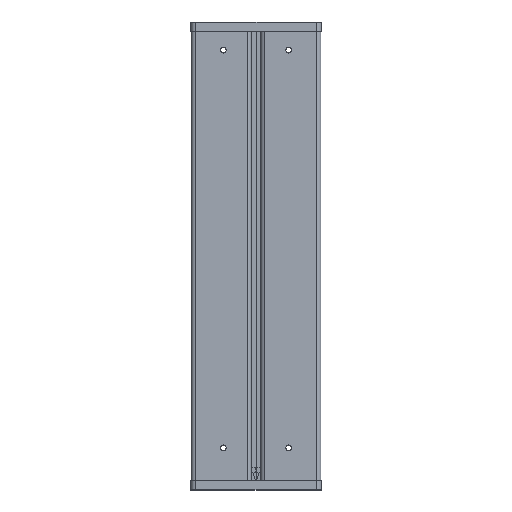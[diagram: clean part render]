
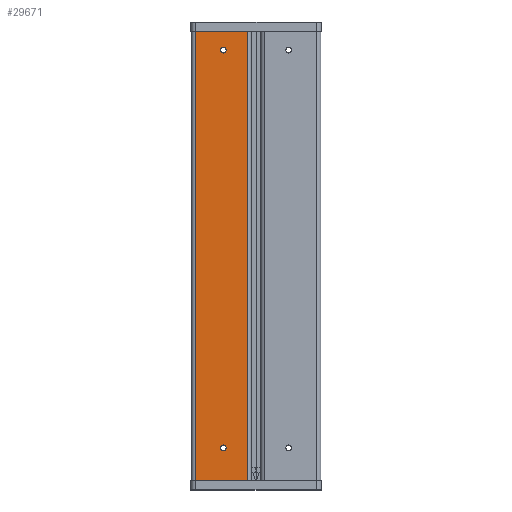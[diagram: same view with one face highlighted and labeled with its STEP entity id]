
A CAD part, left-side view. The second image highlights one B-rep face of the part: STEP entity #29671.
In plain terms, the highlighted planar face has unit normal (-1, 0, 0).
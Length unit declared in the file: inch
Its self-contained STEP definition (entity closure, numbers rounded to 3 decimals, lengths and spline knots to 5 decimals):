
#531 = EDGE_CURVE ( 'NONE', #18330, #22238, #23616, .T. ) ;
#1110 = EDGE_CURVE ( 'NONE', #23128, #25117, #12680, .T. ) ;
#1432 = FACE_OUTER_BOUND ( 'NONE', #6837, .T. ) ;
#2012 = DIRECTION ( 'NONE',  ( 0., -1., 0. ) ) ;
#2442 = AXIS2_PLACEMENT_3D ( 'NONE', #17039, #25184, #2772 ) ;
#2772 = DIRECTION ( 'NONE',  ( 0., 0., 1. ) ) ;
#2990 = CIRCLE ( 'NONE', #2442, 0.078 ) ;
#3603 = ORIENTED_EDGE ( 'NONE', *, *, #1110, .F. ) ;
#3945 = DIRECTION ( 'NONE',  ( 0., 0., -1. ) ) ;
#4224 = FACE_BOUND ( 'NONE', #32148, .T. ) ;
#5848 = DIRECTION ( 'NONE',  ( 0., 0., 1. ) ) ;
#6675 = FACE_BOUND ( 'NONE', #19888, .T. ) ;
#6837 = EDGE_LOOP ( 'NONE', ( #13000, #26668, #16983, #16011 ) ) ;
#7180 = CARTESIAN_POINT ( 'NONE',  ( -4.21, 0.855, 5.125 ) ) ;
#7263 = VERTEX_POINT ( 'NONE', #20781 ) ;
#7474 = CARTESIAN_POINT ( 'NONE',  ( -4.21, 0.855, 5.047 ) ) ;
#7684 = DIRECTION ( 'NONE',  ( 0., 0., -1. ) ) ;
#7975 = EDGE_CURVE ( 'NONE', #27888, #15485, #2990, .T. ) ;
#9141 = DIRECTION ( 'NONE',  ( -1., 0., 0. ) ) ;
#10285 = AXIS2_PLACEMENT_3D ( 'NONE', #14196, #14030, #31248 ) ;
#11115 = CARTESIAN_POINT ( 'NONE',  ( -4.21, 1.49, 6. ) ) ;
#11262 = AXIS2_PLACEMENT_3D ( 'NONE', #31594, #9141, #29146 ) ;
#11423 = CIRCLE ( 'NONE', #29725, 0.078 ) ;
#11865 = CARTESIAN_POINT ( 'NONE',  ( -4.21, 1.6, 6. ) ) ;
#12048 = EDGE_CURVE ( 'NONE', #18330, #13475, #26610, .T. ) ;
#12680 = CIRCLE ( 'NONE', #16337, 0.078 ) ;
#13000 = ORIENTED_EDGE ( 'NONE', *, *, #23714, .T. ) ;
#13475 = VERTEX_POINT ( 'NONE', #26238 ) ;
#13479 = DIRECTION ( 'NONE',  ( 0., 0., 1. ) ) ;
#14030 = DIRECTION ( 'NONE',  ( 1., 0., 0. ) ) ;
#14196 = CARTESIAN_POINT ( 'NONE',  ( -4.21, 1.6, 6. ) ) ;
#14857 = ORIENTED_EDGE ( 'NONE', *, *, #15087, .F. ) ;
#15087 = EDGE_CURVE ( 'NONE', #25117, #23128, #11423, .T. ) ;
#15485 = VERTEX_POINT ( 'NONE', #22000 ) ;
#15532 = CARTESIAN_POINT ( 'NONE',  ( -4.21, 0.11, 6. ) ) ;
#15549 = VECTOR ( 'NONE', #7684, 39.37008 ) ;
#15696 = LINE ( 'NONE', #15532, #15549 ) ;
#15723 = ORIENTED_EDGE ( 'NONE', *, *, #7975, .F. ) ;
#16011 = ORIENTED_EDGE ( 'NONE', *, *, #531, .T. ) ;
#16337 = AXIS2_PLACEMENT_3D ( 'NONE', #7180, #17185, #5848 ) ;
#16521 = CIRCLE ( 'NONE', #11262, 0.078 ) ;
#16532 = CARTESIAN_POINT ( 'NONE',  ( -4.21, 0.855, -5.422 ) ) ;
#16564 = CARTESIAN_POINT ( 'NONE',  ( -4.21, 0.855, 5.203 ) ) ;
#16983 = ORIENTED_EDGE ( 'NONE', *, *, #12048, .F. ) ;
#17039 = CARTESIAN_POINT ( 'NONE',  ( -4.21, 0.855, -5.5 ) ) ;
#17185 = DIRECTION ( 'NONE',  ( -1., 0., 0. ) ) ;
#17276 = EDGE_CURVE ( 'NONE', #15485, #27888, #16521, .T. ) ;
#17487 = VECTOR ( 'NONE', #19105, 39.37008 ) ;
#18330 = VERTEX_POINT ( 'NONE', #11115 ) ;
#18828 = CARTESIAN_POINT ( 'NONE',  ( -4.21, 1.49, -6. ) ) ;
#19105 = DIRECTION ( 'NONE',  ( 0., -1., 0. ) ) ;
#19366 = VECTOR ( 'NONE', #2012, 39.37008 ) ;
#19553 = CARTESIAN_POINT ( 'NONE',  ( -4.21, 1.6, -6. ) ) ;
#19888 = EDGE_LOOP ( 'NONE', ( #14857, #3603 ) ) ;
#20781 = CARTESIAN_POINT ( 'NONE',  ( -4.21, 0.11, -6. ) ) ;
#21049 = DIRECTION ( 'NONE',  ( -1., 0., 0. ) ) ;
#21765 = PLANE ( 'NONE',  #10285 ) ;
#22000 = CARTESIAN_POINT ( 'NONE',  ( -4.21, 0.855, -5.578 ) ) ;
#22238 = VERTEX_POINT ( 'NONE', #18828 ) ;
#22883 = ORIENTED_EDGE ( 'NONE', *, *, #17276, .F. ) ;
#23128 = VERTEX_POINT ( 'NONE', #7474 ) ;
#23616 = LINE ( 'NONE', #28829, #30368 ) ;
#23714 = EDGE_CURVE ( 'NONE', #22238, #7263, #24112, .T. ) ;
#24112 = LINE ( 'NONE', #19553, #19366 ) ;
#25117 = VERTEX_POINT ( 'NONE', #16564 ) ;
#25184 = DIRECTION ( 'NONE',  ( -1., 0., 0. ) ) ;
#26238 = CARTESIAN_POINT ( 'NONE',  ( -4.21, 0.11, 6. ) ) ;
#26610 = LINE ( 'NONE', #11865, #17487 ) ;
#26668 = ORIENTED_EDGE ( 'NONE', *, *, #31174, .F. ) ;
#27888 = VERTEX_POINT ( 'NONE', #16532 ) ;
#28829 = CARTESIAN_POINT ( 'NONE',  ( -4.21, 1.49, 6. ) ) ;
#29146 = DIRECTION ( 'NONE',  ( 0., 0., 1. ) ) ;
#29671 = ADVANCED_FACE ( 'Face6', ( #4224, #6675, #1432 ), #21765, .F. ) ;
#29725 = AXIS2_PLACEMENT_3D ( 'NONE', #31182, #21049, #13479 ) ;
#30368 = VECTOR ( 'NONE', #3945, 39.37008 ) ;
#31174 = EDGE_CURVE ( 'NONE', #13475, #7263, #15696, .T. ) ;
#31182 = CARTESIAN_POINT ( 'NONE',  ( -4.21, 0.855, 5.125 ) ) ;
#31248 = DIRECTION ( 'NONE',  ( 0., 0., -1. ) ) ;
#31594 = CARTESIAN_POINT ( 'NONE',  ( -4.21, 0.855, -5.5 ) ) ;
#32148 = EDGE_LOOP ( 'NONE', ( #15723, #22883 ) ) ;
